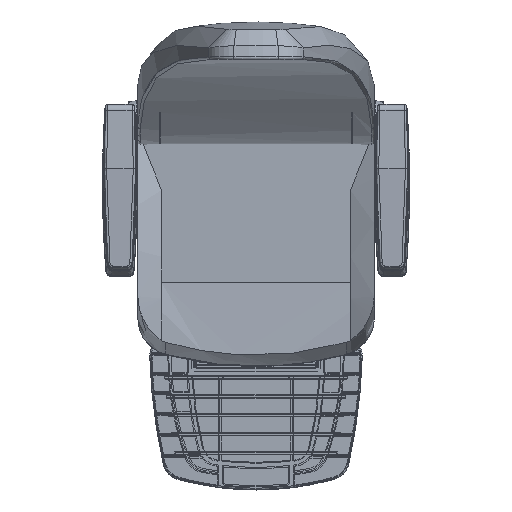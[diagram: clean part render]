
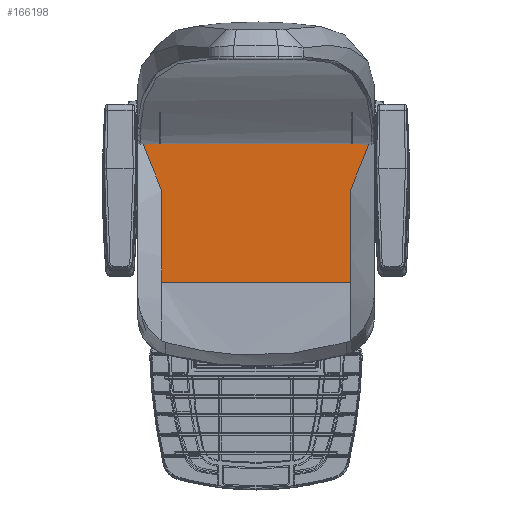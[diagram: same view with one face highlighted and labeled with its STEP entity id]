
A CAD part, top view. The second image highlights one B-rep face of the part: STEP entity #166198.
In plain terms, the highlighted planar face has unit normal (0, 0, 1).
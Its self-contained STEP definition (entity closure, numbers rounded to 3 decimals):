
#2868 = EDGE_CURVE ( 'NONE', #256271, #157733, #218108, .T. ) ;
#7768 = EDGE_CURVE ( 'NONE', #163720, #88724, #67757, .T. ) ;
#11281 = ORIENTED_EDGE ( 'NONE', *, *, #34191, .F. ) ;
#11734 = ORIENTED_EDGE ( 'NONE', *, *, #2868, .T. ) ;
#16913 = VECTOR ( 'NONE', #50273, 1000. ) ;
#25212 = VERTEX_POINT ( 'NONE', #159042 ) ;
#27582 = EDGE_CURVE ( 'NONE', #223086, #92708, #106041, .T. ) ;
#31277 = CARTESIAN_POINT ( 'NONE',  ( -250., 124.144, 637.996 ) ) ;
#34191 = EDGE_CURVE ( 'NONE', #148041, #98269, #71511, .T. ) ;
#35061 = CARTESIAN_POINT ( 'NONE',  ( -238.441, 104.82, 637.996 ) ) ;
#37467 = CARTESIAN_POINT ( 'NONE',  ( 250., 124.144, 637.996 ) ) ;
#45433 = CARTESIAN_POINT ( 'NONE',  ( -240., 124.144, 637.996 ) ) ;
#50273 = DIRECTION ( 'NONE',  ( 1., 0., 0. ) ) ;
#50490 = PLANE ( 'NONE',  #228791 ) ;
#51329 = DIRECTION ( 'NONE',  ( 0., 1., 0. ) ) ;
#52812 = VECTOR ( 'NONE', #245884, 1000. ) ;
#53727 = B_SPLINE_CURVE_WITH_KNOTS ( 'NONE', 3,
 ( #199725, #60086, #219893, #100307, #239999, #120396 ),
 .UNSPECIFIED., .F., .F.,
 ( 4, 2, 4 ),
 ( 0., 0.064, 0.129 ),
 .UNSPECIFIED. ) ;
#54124 = DIRECTION ( 'NONE',  ( 0., 1., 0. ) ) ;
#55113 = CARTESIAN_POINT ( 'NONE',  ( -213.627, 45.456, 637.996 ) ) ;
#59251 = EDGE_CURVE ( 'NONE', #162859, #92708, #139554, .T. ) ;
#60086 = CARTESIAN_POINT ( 'NONE',  ( 206.386, 25.288, 637.996 ) ) ;
#62676 = VECTOR ( 'NONE', #54124, 1000. ) ;
#67757 = B_SPLINE_CURVE_WITH_KNOTS ( 'NONE', 3,
 ( #174690, #35061, #154622, #55113, #194751, #75278 ),
 .UNSPECIFIED., .F., .F.,
 ( 4, 2, 4 ),
 ( 0., 0.064, 0.129 ),
 .UNSPECIFIED. ) ;
#69093 = LINE ( 'NONE', #37467, #215849 ) ;
#70165 = CARTESIAN_POINT ( 'NONE',  ( 200., 179.871, 637.996 ) ) ;
#71511 = LINE ( 'NONE', #70165, #118453 ) ;
#72970 = CARTESIAN_POINT ( 'NONE',  ( -250., -190.856, 637.996 ) ) ;
#74142 = ORIENTED_EDGE ( 'NONE', *, *, #116657, .T. ) ;
#75278 = CARTESIAN_POINT ( 'NONE',  ( -200., 4.747, 637.996 ) ) ;
#77336 = EDGE_CURVE ( 'NONE', #25212, #98269, #169959, .T. ) ;
#84824 = DIRECTION ( 'NONE',  ( 0., 1., 0. ) ) ;
#86111 = CARTESIAN_POINT ( 'NONE',  ( 240., 151.211, 637.996 ) ) ;
#88724 = VERTEX_POINT ( 'NONE', #235440 ) ;
#89623 = CARTESIAN_POINT ( 'NONE',  ( 247.906, 124.144, 637.996 ) ) ;
#90308 = DIRECTION ( 'NONE',  ( 0., -1., 0. ) ) ;
#91184 = CARTESIAN_POINT ( 'NONE',  ( -240., 151.211, 637.996 ) ) ;
#92708 = VERTEX_POINT ( 'NONE', #91184 ) ;
#96337 = CARTESIAN_POINT ( 'NONE',  ( 240., 124.144, 637.996 ) ) ;
#98269 = VERTEX_POINT ( 'NONE', #180734 ) ;
#100307 = CARTESIAN_POINT ( 'NONE',  ( 229.669, 85.255, 637.996 ) ) ;
#103560 = CARTESIAN_POINT ( 'NONE',  ( -247.906, 124.144, 637.996 ) ) ;
#106041 = LINE ( 'NONE', #86111, #52812 ) ;
#110353 = ORIENTED_EDGE ( 'NONE', *, *, #77336, .T. ) ;
#111934 = VECTOR ( 'NONE', #259026, 1000. ) ;
#112205 = CARTESIAN_POINT ( 'NONE',  ( 240., 124.144, 637.996 ) ) ;
#115843 = LINE ( 'NONE', #253264, #62676 ) ;
#116657 = EDGE_CURVE ( 'NONE', #162859, #163720, #69093, .T. ) ;
#118453 = VECTOR ( 'NONE', #90308, 1000. ) ;
#120327 = ORIENTED_EDGE ( 'NONE', *, *, #191865, .T. ) ;
#120396 = CARTESIAN_POINT ( 'NONE',  ( 247.906, 124.144, 637.996 ) ) ;
#124991 = CARTESIAN_POINT ( 'NONE',  ( 240., 151.211, 637.996 ) ) ;
#132181 = DIRECTION ( 'NONE',  ( 0., 1., 0. ) ) ;
#139554 = LINE ( 'NONE', #45433, #245819 ) ;
#141930 = ORIENTED_EDGE ( 'NONE', *, *, #27582, .T. ) ;
#143061 = EDGE_LOOP ( 'NONE', ( #11734, #156134, #141930, #256139, #74142, #165231, #208083, #110353, #11281, #120327 ) ) ;
#148041 = VERTEX_POINT ( 'NONE', #213457 ) ;
#154622 = CARTESIAN_POINT ( 'NONE',  ( -229.658, 85.231, 637.996 ) ) ;
#156134 = ORIENTED_EDGE ( 'NONE', *, *, #198044, .T. ) ;
#157733 = VERTEX_POINT ( 'NONE', #96337 ) ;
#159042 = CARTESIAN_POINT ( 'NONE',  ( -200., -190.856, 637.996 ) ) ;
#162859 = VERTEX_POINT ( 'NONE', #239470 ) ;
#163720 = VERTEX_POINT ( 'NONE', #103560 ) ;
#165231 = ORIENTED_EDGE ( 'NONE', *, *, #7768, .T. ) ;
#166198 = ADVANCED_FACE ( 'NONE', ( #225544 ), #50490, .T. ) ;
#169959 = LINE ( 'NONE', #72970, #16913 ) ;
#170959 = DIRECTION ( 'NONE',  ( 0., 0., 1. ) ) ;
#174690 = CARTESIAN_POINT ( 'NONE',  ( -247.906, 124.144, 637.996 ) ) ;
#180734 = CARTESIAN_POINT ( 'NONE',  ( 200., -190.856, 637.996 ) ) ;
#191865 = EDGE_CURVE ( 'NONE', #148041, #256271, #53727, .T. ) ;
#192927 = EDGE_CURVE ( 'NONE', #25212, #88724, #115843, .T. ) ;
#194751 = CARTESIAN_POINT ( 'NONE',  ( -206.38, 25.27, 637.996 ) ) ;
#197148 = DIRECTION ( 'NONE',  ( -1., 0., 0. ) ) ;
#198044 = EDGE_CURVE ( 'NONE', #157733, #223086, #248075, .T. ) ;
#199725 = CARTESIAN_POINT ( 'NONE',  ( 200., 4.747, 637.996 ) ) ;
#208083 = ORIENTED_EDGE ( 'NONE', *, *, #192927, .F. ) ;
#213457 = CARTESIAN_POINT ( 'NONE',  ( 200., 4.747, 637.996 ) ) ;
#215849 = VECTOR ( 'NONE', #197148, 1000. ) ;
#218108 = LINE ( 'NONE', #238974, #111934 ) ;
#219893 = CARTESIAN_POINT ( 'NONE',  ( 213.637, 45.482, 637.996 ) ) ;
#223086 = VERTEX_POINT ( 'NONE', #124991 ) ;
#225544 = FACE_OUTER_BOUND ( 'NONE', #143061, .T. ) ;
#228791 = AXIS2_PLACEMENT_3D ( 'NONE', #31277, #170959, #51329 ) ;
#235440 = CARTESIAN_POINT ( 'NONE',  ( -200., 4.747, 637.996 ) ) ;
#238974 = CARTESIAN_POINT ( 'NONE',  ( 250., 124.144, 637.996 ) ) ;
#239470 = CARTESIAN_POINT ( 'NONE',  ( -240., 124.144, 637.996 ) ) ;
#239999 = CARTESIAN_POINT ( 'NONE',  ( 238.449, 104.836, 637.996 ) ) ;
#241825 = VECTOR ( 'NONE', #132181, 1000. ) ;
#245819 = VECTOR ( 'NONE', #84824, 1000. ) ;
#245884 = DIRECTION ( 'NONE',  ( -1., 0., 0. ) ) ;
#248075 = LINE ( 'NONE', #112205, #241825 ) ;
#253264 = CARTESIAN_POINT ( 'NONE',  ( -200., 179.871, 637.996 ) ) ;
#256139 = ORIENTED_EDGE ( 'NONE', *, *, #59251, .F. ) ;
#256271 = VERTEX_POINT ( 'NONE', #89623 ) ;
#259026 = DIRECTION ( 'NONE',  ( -1., 0., 0. ) ) ;
